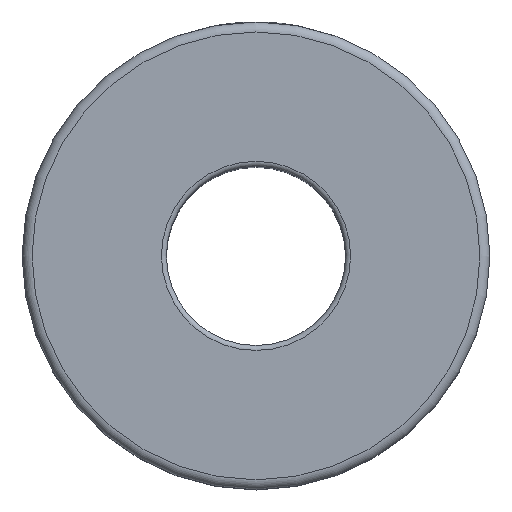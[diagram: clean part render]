
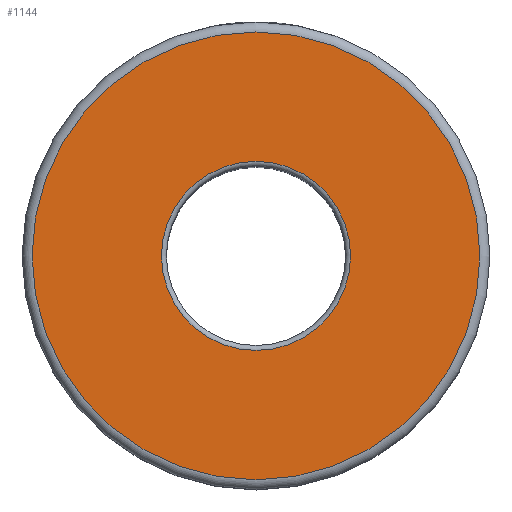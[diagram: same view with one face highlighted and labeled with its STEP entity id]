
A CAD part, top view. The second image highlights one B-rep face of the part: STEP entity #1144.
In plain terms, the highlighted planar face has unit normal (0, 0, 1).
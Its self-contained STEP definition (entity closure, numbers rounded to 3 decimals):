
#35=FACE_BOUND('',#409,.T.);
#235=PLANE('',#1258);
#337=FACE_OUTER_BOUND('',#408,.T.);
#408=EDGE_LOOP('',(#875));
#409=EDGE_LOOP('',(#876));
#497=CIRCLE('',#1254,9.5);
#501=CIRCLE('',#1259,22.5);
#572=VERTEX_POINT('',#2018);
#575=VERTEX_POINT('',#2026);
#689=EDGE_CURVE('',#572,#572,#497,.T.);
#693=EDGE_CURVE('',#575,#575,#501,.T.);
#875=ORIENTED_EDGE('',*,*,#693,.F.);
#876=ORIENTED_EDGE('',*,*,#689,.F.);
#1144=ADVANCED_FACE('',(#337,#35),#235,.T.);
#1254=AXIS2_PLACEMENT_3D('',#2019,#1428,#1429);
#1258=AXIS2_PLACEMENT_3D('',#2025,#1436,#1437);
#1259=AXIS2_PLACEMENT_3D('',#2027,#1438,#1439);
#1428=DIRECTION('center_axis',(0.,0.,1.));
#1429=DIRECTION('ref_axis',(0.,1.,0.));
#1436=DIRECTION('center_axis',(0.,0.,1.));
#1437=DIRECTION('ref_axis',(1.,0.,0.));
#1438=DIRECTION('center_axis',(0.,0.,-1.));
#1439=DIRECTION('ref_axis',(0.,1.,0.));
#2018=CARTESIAN_POINT('',(9.5,0.,0.));
#2019=CARTESIAN_POINT('Origin',(0.,0.,0.));
#2025=CARTESIAN_POINT('Origin',(0.,-23.5,0.));
#2026=CARTESIAN_POINT('',(22.5,0.,0.));
#2027=CARTESIAN_POINT('Origin',(0.,0.,0.));
